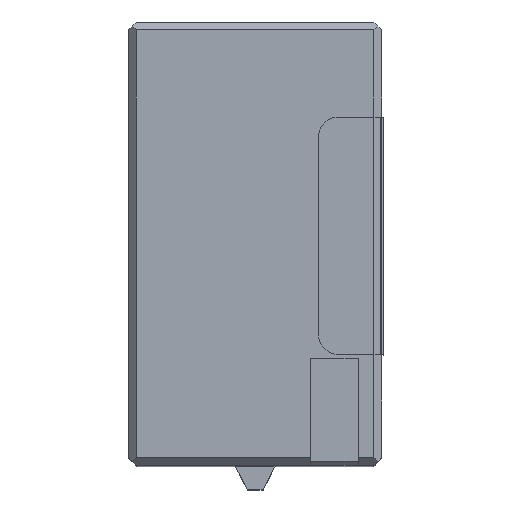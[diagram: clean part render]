
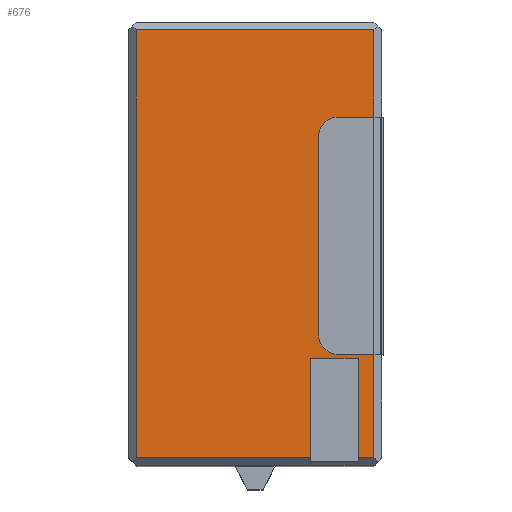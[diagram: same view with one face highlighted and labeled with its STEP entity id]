
A CAD part, top view. The second image highlights one B-rep face of the part: STEP entity #676.
In plain terms, the highlighted planar face has unit normal (0, 0, 1).
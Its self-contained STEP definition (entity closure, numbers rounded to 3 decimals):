
#161=VERTEX_POINT('',#162);
#162=CARTESIAN_POINT('',(-9.0,1.0,58.0));
#168=EDGE_CURVE('',#161,#169,#171,.F.);
#169=VERTEX_POINT('',#170);
#170=CARTESIAN_POINT('',(-31.0,1.0,58.0));
#171=LINE('',#172,#173);
#172=CARTESIAN_POINT('',(-31.0,1.0,58.0));
#173=VECTOR('',#174,1.0);
#174=DIRECTION('',(1.0,0.0,0.0));
#222=VERTEX_POINT('',#223);
#223=CARTESIAN_POINT('',(-31.0,55.0,58.0));
#247=EDGE_CURVE('',#169,#222,#248,.T.);
#248=LINE('',#249,#250);
#249=CARTESIAN_POINT('',(-31.0,0.,58.0));
#250=VECTOR('',#251,1.0);
#251=DIRECTION('',(0.0,1.0,0.));
#389=VERTEX_POINT('',#390);
#390=CARTESIAN_POINT('',(-1.0,1.0,58.0));
#396=EDGE_CURVE('',#389,#397,#399,.F.);
#397=VERTEX_POINT('',#398);
#398=CARTESIAN_POINT('',(-3.0,1.0,58.0));
#399=LINE('',#400,#401);
#400=CARTESIAN_POINT('',(-3.0,1.0,58.0));
#401=VECTOR('',#402,1.0);
#402=DIRECTION('',(1.0,0.0,0.0));
#656=EDGE_CURVE('',#657,#161,#659,.F.);
#657=VERTEX_POINT('',#658);
#658=CARTESIAN_POINT('',(-9.0,13.5,58.0));
#659=LINE('',#660,#661);
#660=CARTESIAN_POINT('',(-9.0,0.,58.0));
#661=VECTOR('',#662,1.0);
#662=DIRECTION('',(0.0,1.0,0.));
#676=ADVANCED_FACE('',(#677),#711,.F.);
#677=FACE_BOUND('',#678,.T.);
#678=EDGE_LOOP('',(#679,#687,#693,#694,#702,#708,#709,#710));
#679=ORIENTED_EDGE('',*,*,#680,.T.);
#680=EDGE_CURVE('',#657,#681,#683,.T.);
#681=VERTEX_POINT('',#682);
#682=CARTESIAN_POINT('',(-3.0,13.5,58.0));
#683=LINE('',#684,#685);
#684=CARTESIAN_POINT('',(-9.0,13.5,58.0));
#685=VECTOR('',#686,1.0);
#686=DIRECTION('',(1.0,0.0,0.0));
#687=ORIENTED_EDGE('',*,*,#688,.T.);
#688=EDGE_CURVE('',#681,#397,#689,.T.);
#689=LINE('',#690,#691);
#690=CARTESIAN_POINT('',(-3.0,13.5,58.0));
#691=VECTOR('',#692,1.0);
#692=DIRECTION('',(0.0,-1.0,0.));
#693=ORIENTED_EDGE('',*,*,#396,.F.);
#694=ORIENTED_EDGE('',*,*,#695,.T.);
#695=EDGE_CURVE('',#389,#696,#698,.T.);
#696=VERTEX_POINT('',#697);
#697=CARTESIAN_POINT('',(-1.0,55.0,58.0));
#698=LINE('',#699,#700);
#699=CARTESIAN_POINT('',(-1.0,0.,58.0));
#700=VECTOR('',#701,1.0);
#701=DIRECTION('',(0.0,1.0,0.));
#702=ORIENTED_EDGE('',*,*,#703,.T.);
#703=EDGE_CURVE('',#696,#222,#704,.F.);
#704=LINE('',#705,#706);
#705=CARTESIAN_POINT('',(-31.0,55.0,58.0));
#706=VECTOR('',#707,1.0);
#707=DIRECTION('',(1.0,0.0,0.0));
#708=ORIENTED_EDGE('',*,*,#247,.F.);
#709=ORIENTED_EDGE('',*,*,#168,.F.);
#710=ORIENTED_EDGE('',*,*,#656,.F.);
#711=PLANE('',#712);
#712=AXIS2_PLACEMENT_3D('',#713,#714,#715);
#713=CARTESIAN_POINT('',(-31.0,0.,58.0));
#714=DIRECTION('',(0.0,0.,-1.0));
#715=DIRECTION('',(1.0,0.0,0.0));
